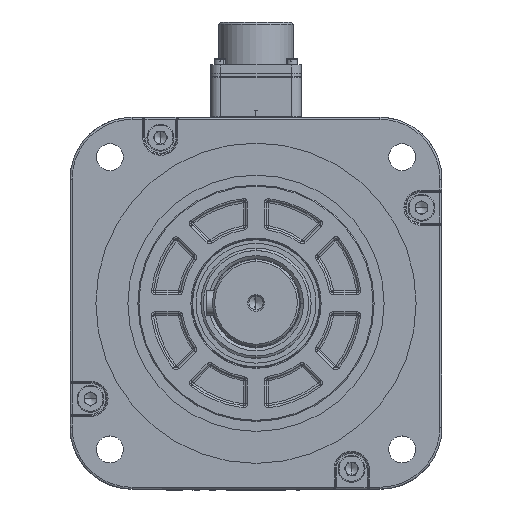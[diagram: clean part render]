
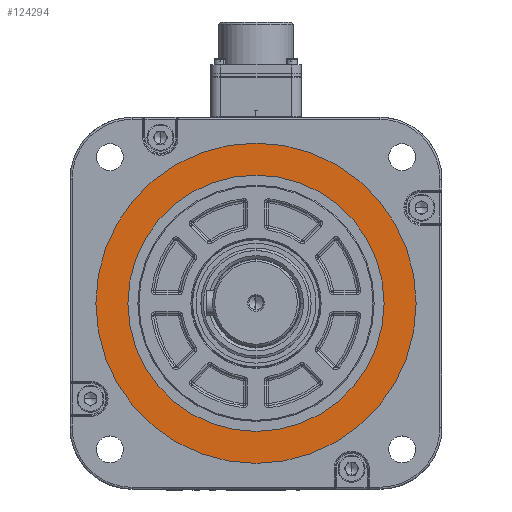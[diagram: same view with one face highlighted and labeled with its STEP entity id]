
A CAD part, top view. The second image highlights one B-rep face of the part: STEP entity #124294.
In plain terms, the highlighted planar face has unit normal (0, 0, 1) as drawn and (0, 0, -1) by its records, which use the part's own axes.
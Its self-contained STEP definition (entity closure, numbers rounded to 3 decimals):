
#4815 = EDGE_LOOP ( 'NONE', ( #45857, #165800 ) ) ;
#13228 = DIRECTION ( 'NONE',  ( -1., 0., 0. ) ) ;
#13754 = DIRECTION ( 'NONE',  ( 0., 0., -1. ) ) ;
#14303 = DIRECTION ( 'NONE',  ( -1., 0., 0. ) ) ;
#24915 = AXIS2_PLACEMENT_3D ( 'NONE', #155630, #38401, #90783 ) ;
#29341 = EDGE_CURVE ( 'NONE', #102882, #122125, #101963, .T. ) ;
#38401 = DIRECTION ( 'NONE',  ( 0., 0., 1. ) ) ;
#39539 = CIRCLE ( 'NONE', #24915, 62. ) ;
#43004 = EDGE_LOOP ( 'NONE', ( #54980, #148767 ) ) ;
#45857 = ORIENTED_EDGE ( 'NONE', *, *, #66025, .T. ) ;
#54048 = FACE_OUTER_BOUND ( 'NONE', #4815, .T. ) ;
#54980 = ORIENTED_EDGE ( 'NONE', *, *, #29341, .T. ) ;
#62323 = CARTESIAN_POINT ( 'NONE',  ( 0., 0., 1.5 ) ) ;
#62875 = DIRECTION ( 'NONE',  ( -1., 0., 0. ) ) ;
#63409 = CARTESIAN_POINT ( 'NONE',  ( 0., 0., 1.5 ) ) ;
#66025 = EDGE_CURVE ( 'NONE', #141385, #156030, #155957, .T. ) ;
#72629 = DIRECTION ( 'NONE',  ( 0., 0., -1. ) ) ;
#76592 = AXIS2_PLACEMENT_3D ( 'NONE', #63409, #103839, #13228 ) ;
#86033 = EDGE_CURVE ( 'NONE', #156030, #141385, #166739, .T. ) ;
#88619 = DIRECTION ( 'NONE',  ( 0., 0., 1. ) ) ;
#90783 = DIRECTION ( 'NONE',  ( -1., 0., 0. ) ) ;
#90870 = CARTESIAN_POINT ( 'NONE',  ( -62., 0., 1.5 ) ) ;
#98890 = CARTESIAN_POINT ( 'NONE',  ( -77.5, 0., 1.5 ) ) ;
#101963 = CIRCLE ( 'NONE', #153952, 62. ) ;
#102882 = VERTEX_POINT ( 'NONE', #90870 ) ;
#103839 = DIRECTION ( 'NONE',  ( 0., 0., -1. ) ) ;
#106908 = AXIS2_PLACEMENT_3D ( 'NONE', #122773, #72629, #109726 ) ;
#109726 = DIRECTION ( 'NONE',  ( -1., 0., 0. ) ) ;
#110852 = PLANE ( 'NONE',  #106908 ) ;
#111096 = FACE_BOUND ( 'NONE', #43004, .T. ) ;
#122125 = VERTEX_POINT ( 'NONE', #136805 ) ;
#122773 = CARTESIAN_POINT ( 'NONE',  ( 0., 0., 1.5 ) ) ;
#124294 = ADVANCED_FACE ( 'NONE', ( #54048, #111096 ), #110852, .T. ) ;
#125341 = AXIS2_PLACEMENT_3D ( 'NONE', #156173, #13754, #14303 ) ;
#136805 = CARTESIAN_POINT ( 'NONE',  ( 62., 0., 1.5 ) ) ;
#141385 = VERTEX_POINT ( 'NONE', #98890 ) ;
#144711 = EDGE_CURVE ( 'NONE', #122125, #102882, #39539, .T. ) ;
#146275 = CARTESIAN_POINT ( 'NONE',  ( 77.5, 0., 1.5 ) ) ;
#148767 = ORIENTED_EDGE ( 'NONE', *, *, #144711, .T. ) ;
#153952 = AXIS2_PLACEMENT_3D ( 'NONE', #62323, #88619, #62875 ) ;
#155630 = CARTESIAN_POINT ( 'NONE',  ( 0., 0., 1.5 ) ) ;
#155957 = CIRCLE ( 'NONE', #125341, 77.5 ) ;
#156030 = VERTEX_POINT ( 'NONE', #146275 ) ;
#156173 = CARTESIAN_POINT ( 'NONE',  ( 0., 0., 1.5 ) ) ;
#165800 = ORIENTED_EDGE ( 'NONE', *, *, #86033, .T. ) ;
#166739 = CIRCLE ( 'NONE', #76592, 77.5 ) ;
